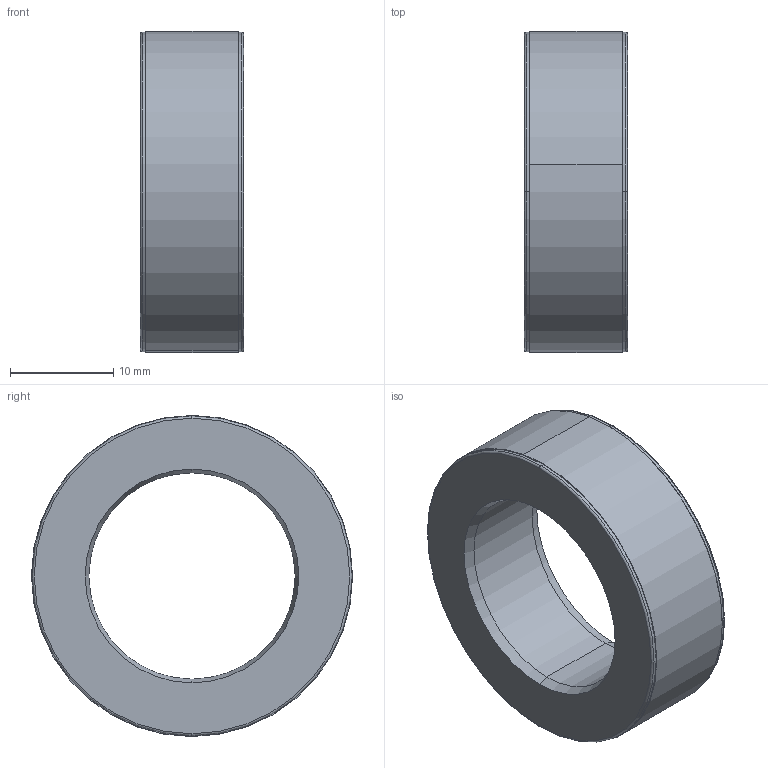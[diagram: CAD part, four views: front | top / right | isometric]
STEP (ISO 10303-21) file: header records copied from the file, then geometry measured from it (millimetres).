
FILE_DESCRIPTION (( 'STEP AP214' ), '1' );
FILE_NAME ('MR031U020.STEP', '2021-09-21T13:20:44', ( '' ), ( '' ), 'SwSTEP 2.0', 'SolidWorks 2020', '' );
FILE_SCHEMA (( 'AUTOMOTIVE_DESIGN' ));
Length unit declared in the file: millimetre
Products named in the file (1): MR031U020
Bounding box: 10 x 31.15 x 31.15 mm (x, y, z)
Volume: 4446.8 mm3; surface area: 2451.4 mm2
Topology: 1 solids, 1 shells, 304 faces, 787 edges, 522 vertices
Faces by surface type: plane 183, bspline 93, cylinder 20, torus 4, cone 4
Entity records: 17003 total; most frequent: CARTESIAN_POINT 6811, ORIENTED_EDGE 1574, DIRECTION 1077, EDGE_CURVE 787, VECTOR 549, LINE 549, VERTEX_POINT 522, EDGE_LOOP 343
